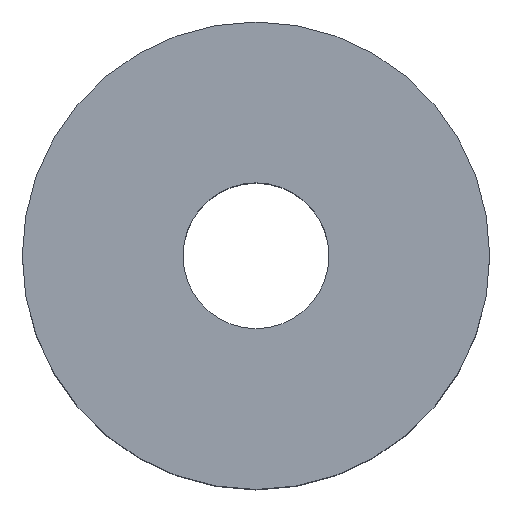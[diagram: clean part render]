
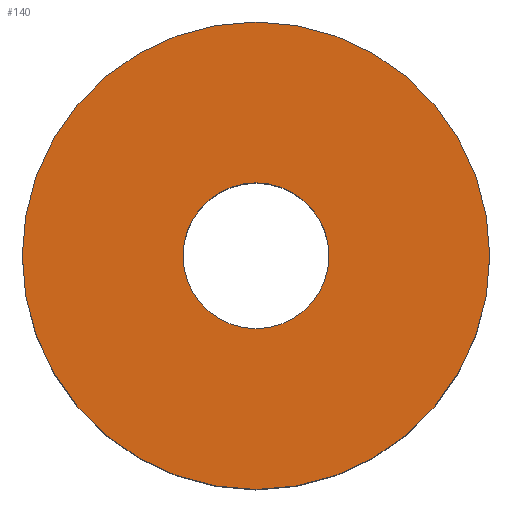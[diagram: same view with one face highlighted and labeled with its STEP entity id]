
A CAD part, top view. The second image highlights one B-rep face of the part: STEP entity #140.
In plain terms, the highlighted planar face has unit normal (0, 0, 1).
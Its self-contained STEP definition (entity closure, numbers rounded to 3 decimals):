
#24 = VERTEX_POINT('',#25);
#25 = CARTESIAN_POINT('',(25.,12.5,15.));
#32 = CYLINDRICAL_SURFACE('',#33,12.5);
#33 = AXIS2_PLACEMENT_3D('',#34,#35,#36);
#34 = CARTESIAN_POINT('',(12.5,12.5,13.5));
#35 = DIRECTION('',(-0.,-0.,-1.));
#36 = DIRECTION('',(1.,0.,0.));
#51 = EDGE_CURVE('',#24,#24,#52,.T.);
#52 = SURFACE_CURVE('',#53,(#58,#65),.PCURVE_S1.);
#53 = CIRCLE('',#54,12.5);
#54 = AXIS2_PLACEMENT_3D('',#55,#56,#57);
#55 = CARTESIAN_POINT('',(12.5,12.5,15.));
#56 = DIRECTION('',(0.,0.,1.));
#57 = DIRECTION('',(1.,0.,0.));
#58 = PCURVE('',#32,#59);
#59 = DEFINITIONAL_REPRESENTATION('',(#60),#64);
#60 = LINE('',#61,#62);
#61 = CARTESIAN_POINT('',(-0.,-1.5));
#62 = VECTOR('',#63,1.);
#63 = DIRECTION('',(-1.,0.));
#64 = ( GEOMETRIC_REPRESENTATION_CONTEXT(2) 
PARAMETRIC_REPRESENTATION_CONTEXT() REPRESENTATION_CONTEXT('2D SPACE',''
  ) );
#65 = PCURVE('',#66,#71);
#66 = PLANE('',#67);
#67 = AXIS2_PLACEMENT_3D('',#68,#69,#70);
#68 = CARTESIAN_POINT('',(12.5,12.5,15.));
#69 = DIRECTION('',(0.,0.,1.));
#70 = DIRECTION('',(1.,0.,-0.));
#71 = DEFINITIONAL_REPRESENTATION('',(#72),#76);
#72 = CIRCLE('',#73,12.5);
#73 = AXIS2_PLACEMENT_2D('',#74,#75);
#74 = CARTESIAN_POINT('',(0.,0.));
#75 = DIRECTION('',(1.,0.));
#76 = ( GEOMETRIC_REPRESENTATION_CONTEXT(2) 
PARAMETRIC_REPRESENTATION_CONTEXT() REPRESENTATION_CONTEXT('2D SPACE',''
  ) );
#140 = ADVANCED_FACE('',(#141,#144),#66,.T.);
#141 = FACE_BOUND('',#142,.T.);
#142 = EDGE_LOOP('',(#143));
#143 = ORIENTED_EDGE('',*,*,#51,.T.);
#144 = FACE_BOUND('',#145,.T.);
#145 = EDGE_LOOP('',(#146));
#146 = ORIENTED_EDGE('',*,*,#147,.T.);
#147 = EDGE_CURVE('',#148,#148,#150,.T.);
#148 = VERTEX_POINT('',#149);
#149 = CARTESIAN_POINT('',(16.4,12.5,15.));
#150 = SURFACE_CURVE('',#151,(#156,#167),.PCURVE_S1.);
#151 = CIRCLE('',#152,3.9);
#152 = AXIS2_PLACEMENT_3D('',#153,#154,#155);
#153 = CARTESIAN_POINT('',(12.5,12.5,15.));
#154 = DIRECTION('',(0.,0.,-1.));
#155 = DIRECTION('',(1.,0.,0.));
#156 = PCURVE('',#66,#157);
#157 = DEFINITIONAL_REPRESENTATION('',(#158),#166);
#158 = ( BOUNDED_CURVE() B_SPLINE_CURVE(2,(#159,#160,#161,#162,#163,#164
,#165),.UNSPECIFIED.,.T.,.F.) B_SPLINE_CURVE_WITH_KNOTS((1,2,2,2,2,1),(
    -2.094,0.,2.094,4.189,6.283,
8.378),.UNSPECIFIED.) CURVE() GEOMETRIC_REPRESENTATION_ITEM() 
RATIONAL_B_SPLINE_CURVE((1.,0.5,1.,0.5,1.,0.5,1.)) REPRESENTATION_ITEM(
  '') );
#159 = CARTESIAN_POINT('',(3.9,0.));
#160 = CARTESIAN_POINT('',(3.9,-6.755));
#161 = CARTESIAN_POINT('',(-1.95,-3.377));
#162 = CARTESIAN_POINT('',(-7.8,0.));
#163 = CARTESIAN_POINT('',(-1.95,3.377));
#164 = CARTESIAN_POINT('',(3.9,6.755));
#165 = CARTESIAN_POINT('',(3.9,0.));
#166 = ( GEOMETRIC_REPRESENTATION_CONTEXT(2) 
PARAMETRIC_REPRESENTATION_CONTEXT() REPRESENTATION_CONTEXT('2D SPACE',''
  ) );
#167 = PCURVE('',#168,#173);
#168 = CYLINDRICAL_SURFACE('',#169,3.9);
#169 = AXIS2_PLACEMENT_3D('',#170,#171,#172);
#170 = CARTESIAN_POINT('',(12.5,12.5,-2.5));
#171 = DIRECTION('',(-0.,-0.,-1.));
#172 = DIRECTION('',(1.,0.,0.));
#173 = DEFINITIONAL_REPRESENTATION('',(#174),#178);
#174 = LINE('',#175,#176);
#175 = CARTESIAN_POINT('',(-6.283,-17.5));
#176 = VECTOR('',#177,1.);
#177 = DIRECTION('',(1.,-0.));
#178 = ( GEOMETRIC_REPRESENTATION_CONTEXT(2) 
PARAMETRIC_REPRESENTATION_CONTEXT() REPRESENTATION_CONTEXT('2D SPACE',''
  ) );
